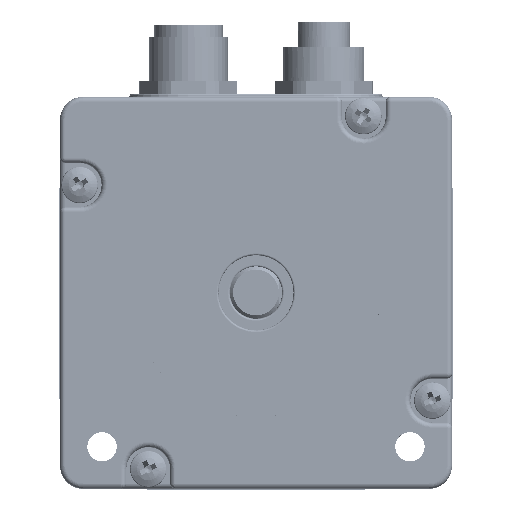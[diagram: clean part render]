
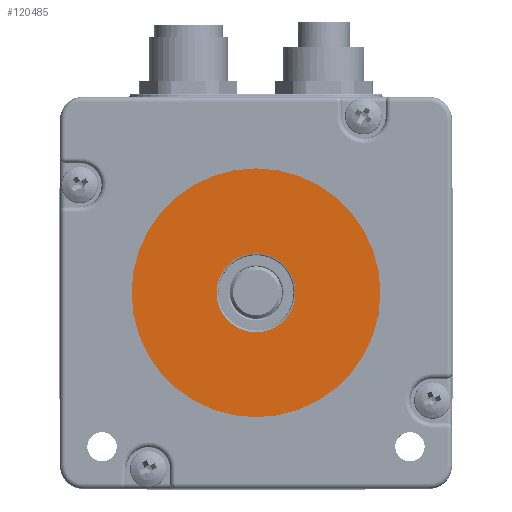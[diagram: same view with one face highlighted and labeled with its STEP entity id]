
A CAD part, top view. The second image highlights one B-rep face of the part: STEP entity #120485.
In plain terms, the highlighted planar face has unit normal (0, 0, 1).
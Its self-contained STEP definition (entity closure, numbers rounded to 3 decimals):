
#5272 = AXIS2_PLACEMENT_3D ( 'NONE', #45415, #60801, #202410 ) ;
#6420 = EDGE_CURVE ( 'NONE', #120720, #174588, #129979, .T. ) ;
#8123 = EDGE_CURVE ( 'NONE', #35206, #42168, #165876, .T. ) ;
#15365 = DIRECTION ( 'NONE',  ( 1., 0., 0. ) ) ;
#16374 = FACE_BOUND ( 'NONE', #184112, .T. ) ;
#24049 = AXIS2_PLACEMENT_3D ( 'NONE', #156014, #185801, #15365 ) ;
#35206 = VERTEX_POINT ( 'NONE', #146606 ) ;
#39351 = ORIENTED_EDGE ( 'NONE', *, *, #8123, .T. ) ;
#42168 = VERTEX_POINT ( 'NONE', #201121 ) ;
#44980 = CARTESIAN_POINT ( 'NONE',  ( -92.902, 46.681, 35.1 ) ) ;
#45415 = CARTESIAN_POINT ( 'NONE',  ( -98.952, 46.681, 35.1 ) ) ;
#56110 = EDGE_CURVE ( 'NONE', #42168, #35206, #134144, .T. ) ;
#59794 = DIRECTION ( 'NONE',  ( 1., 0., 0. ) ) ;
#60801 = DIRECTION ( 'NONE',  ( 0., 0., 1. ) ) ;
#73072 = AXIS2_PLACEMENT_3D ( 'NONE', #75149, #150120, #152135 ) ;
#75149 = CARTESIAN_POINT ( 'NONE',  ( -98.952, 46.681, 35.1 ) ) ;
#88516 = ORIENTED_EDGE ( 'NONE', *, *, #56110, .T. ) ;
#97494 = ORIENTED_EDGE ( 'NONE', *, *, #6420, .T. ) ;
#111799 = CARTESIAN_POINT ( 'NONE',  ( -105.002, 46.681, 35.1 ) ) ;
#120485 = ADVANCED_FACE ( 'NONE', ( #198160, #16374 ), #157020, .T. ) ;
#120720 = VERTEX_POINT ( 'NONE', #111799 ) ;
#129979 = CIRCLE ( 'NONE', #143085, 6.05 ) ;
#134144 = CIRCLE ( 'NONE', #196501, 19.05 ) ;
#143085 = AXIS2_PLACEMENT_3D ( 'NONE', #145789, #146788, #178601 ) ;
#145789 = CARTESIAN_POINT ( 'NONE',  ( -98.952, 46.681, 35.1 ) ) ;
#146606 = CARTESIAN_POINT ( 'NONE',  ( -79.902, 46.681, 35.1 ) ) ;
#146788 = DIRECTION ( 'NONE',  ( 0., 0., -1. ) ) ;
#150120 = DIRECTION ( 'NONE',  ( 0., 0., -1. ) ) ;
#152135 = DIRECTION ( 'NONE',  ( 1., 0., 0. ) ) ;
#156014 = CARTESIAN_POINT ( 'NONE',  ( -98.952, 46.681, 35.1 ) ) ;
#157020 = PLANE ( 'NONE',  #24049 ) ;
#158345 = CIRCLE ( 'NONE', #73072, 6.05 ) ;
#165876 = CIRCLE ( 'NONE', #5272, 19.05 ) ;
#171627 = DIRECTION ( 'NONE',  ( 0., 0., 1. ) ) ;
#174588 = VERTEX_POINT ( 'NONE', #44980 ) ;
#174595 = ORIENTED_EDGE ( 'NONE', *, *, #181575, .T. ) ;
#178601 = DIRECTION ( 'NONE',  ( 1., 0., 0. ) ) ;
#181575 = EDGE_CURVE ( 'NONE', #174588, #120720, #158345, .T. ) ;
#184112 = EDGE_LOOP ( 'NONE', ( #174595, #97494 ) ) ;
#185801 = DIRECTION ( 'NONE',  ( 0., 0., 1. ) ) ;
#187053 = CARTESIAN_POINT ( 'NONE',  ( -98.952, 46.681, 35.1 ) ) ;
#196501 = AXIS2_PLACEMENT_3D ( 'NONE', #187053, #171627, #59794 ) ;
#198160 = FACE_OUTER_BOUND ( 'NONE', #201805, .T. ) ;
#201121 = CARTESIAN_POINT ( 'NONE',  ( -118.002, 46.681, 35.1 ) ) ;
#201805 = EDGE_LOOP ( 'NONE', ( #88516, #39351 ) ) ;
#202410 = DIRECTION ( 'NONE',  ( 1., 0., 0. ) ) ;
